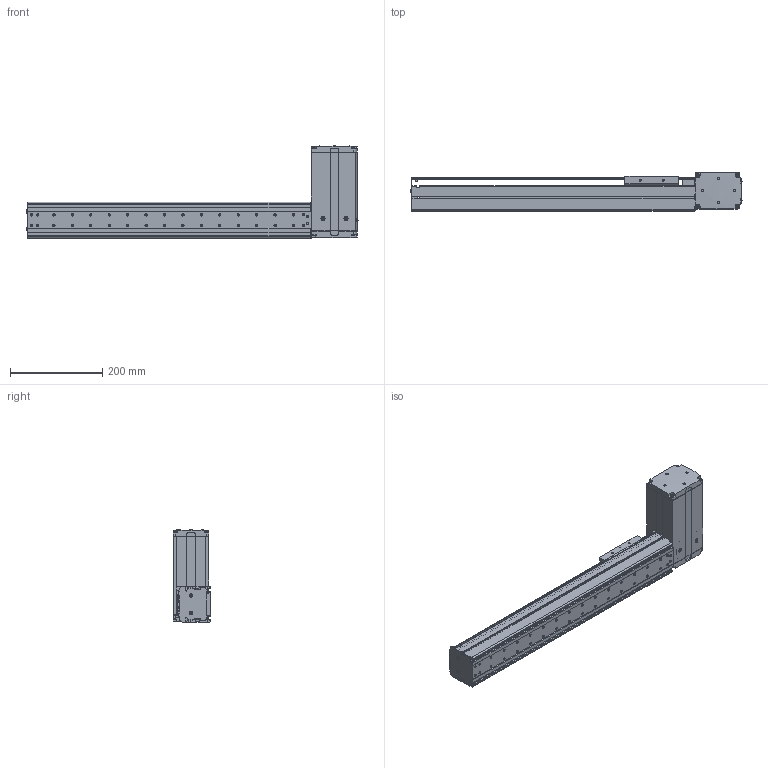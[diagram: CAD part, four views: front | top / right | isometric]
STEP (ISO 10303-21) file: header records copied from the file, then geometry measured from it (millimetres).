
FILE_DESCRIPTION((''),'2;1');
FILE_NAME('BE10_-BR-M_N-40_IGS_PRT','2017-06-18T',(' '),(''),'PRO/ENGINEER BY PARAMETRIC TECHNOLOGY CORPORATION, 2015030','PRO/ENGINEER BY PARAMETRIC TECHNOLOGY CORPORATION, 2015030','');
FILE_SCHEMA(('CONFIG_CONTROL_DESIGN'));
Products named in the file (1): BE10_-BR-M_N-40_IGS_PRT
Bounding box: 720.8 x 82.5 x 200.22 mm (x, y, z)
Volume: 1036001 mm3; surface area: 729103.3 mm2
Topology: 3 solids, 122 shells, 2006 faces, 5467 edges, 3585 vertices
Faces by surface type: plane 977, cylinder 858, cone 111, sphere 30, torus 27, bspline 3
Entity records: 64956 total; most frequent: CARTESIAN_POINT 13205, DIRECTION 10970, ORIENTED_EDGE 10410, EDGE_CURVE 5405, AXIS2_PLACEMENT_3D 3897, VERTEX_POINT 3585, VECTOR 3176, LINE 3176
